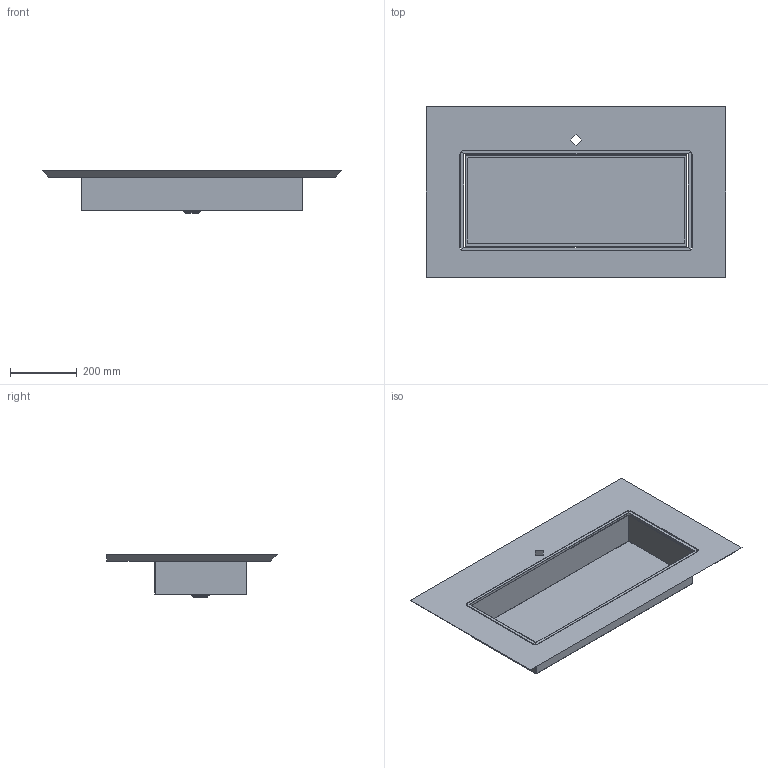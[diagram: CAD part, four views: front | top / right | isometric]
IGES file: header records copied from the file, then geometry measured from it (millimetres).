
Start section: Data from Parasolid IGES Translator 22.0.50, Copyright(c) 2006 Siemens P LM Software. All Rights Reserved.
Global section: file name: noorth-top-H 2 D 51,2 W 90_5461.igs; native system: By Siemens PLM Incorporated; preprocessor: XPlus GENERIC/IGES 22.0.50; author: Noname; organization: Noname; date: 20251109.203014; units: metre
Bounding box: 900 x 512 x 127.88 mm (x, y, z)
Volume: 29435749.1 mm3; surface area: 3710033 mm2
Topology: 3 solids, 3 shells, 3062 faces, 9071 edges, 8946 vertices
Faces by surface type: extrusion 2953, plane 66, bspline 34, cylinder 9
Full cylindrical faces by diameter (mm): 34.697 x1
